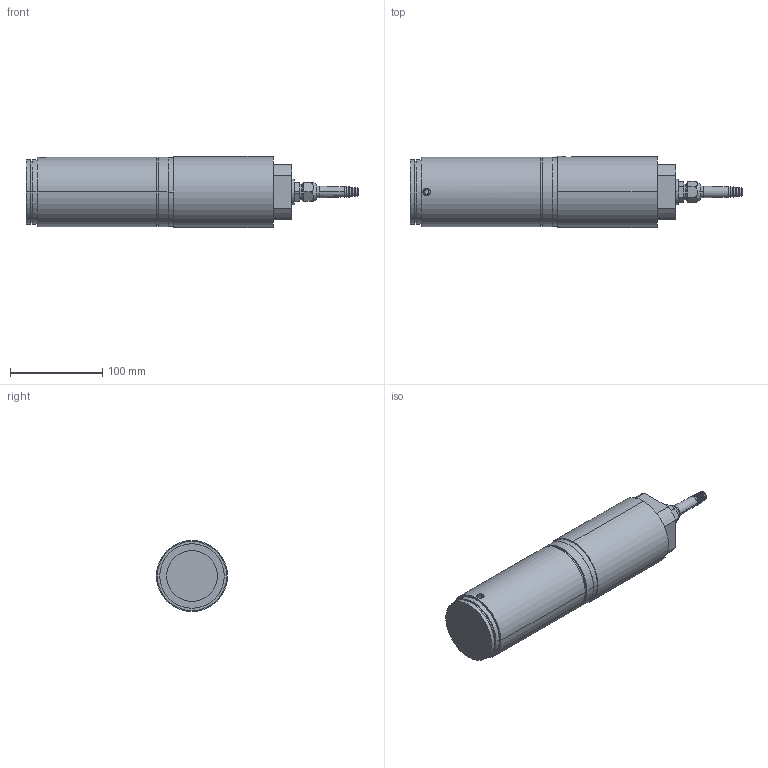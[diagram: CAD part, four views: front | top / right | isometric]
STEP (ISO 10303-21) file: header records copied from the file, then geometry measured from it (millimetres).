
FILE_DESCRIPTION (( 'STEP AP214' ), '1' );
FILE_NAME ('KIS-1 50kN Load Cell.STEP', '2021-06-30T13:35:44', ( '' ), ( '' ), 'SwSTEP 2.0', 'SolidWorks 2021', '' );
FILE_SCHEMA (( 'AUTOMOTIVE_DESIGN' ));
Length unit declared in the file: millimetre
Products named in the file (7): pg 9 kabelförskruvning; Tätning Hylsa Silikon^1157652 - KIS-1 50kN - Rostfri; Wiberger-frp_A2_8x20; M26x1.5 - Pg9 - 6369829_ursvarvat; 5 196 891r1; KIS-1 50kN Load Cell; 4 095 993r4
Assembly tree (6 placements, depth 2):
  KIS-1 50kN Load Cell
    4 095 993r4
    5 196 891r1
    Tätning Hylsa Silikon^1157652 - KIS-1 50kN - Rostfri
    pg 9 kabelförskruvning
    Wiberger-frp_A2_8x20
    M26x1.5 - Pg9 - 6369829_ursvarvat
Bounding box: 360 x 77 x 77 mm (x, y, z)
Volume: 1250804.1 mm3; surface area: 152249.4 mm2
Topology: 6 solids, 9 shells, 409 faces, 993 edges, 635 vertices
Faces by surface type: plane 187, cylinder 96, bspline 58, cone 56, torus 12
Entity records: 17407 total; most frequent: CARTESIAN_POINT 4995, ORIENTED_EDGE 1982, DIRECTION 1917, EDGE_CURVE 991, AXIS2_PLACEMENT_3D 670, VERTEX_POINT 635, VECTOR 577, LINE 577
